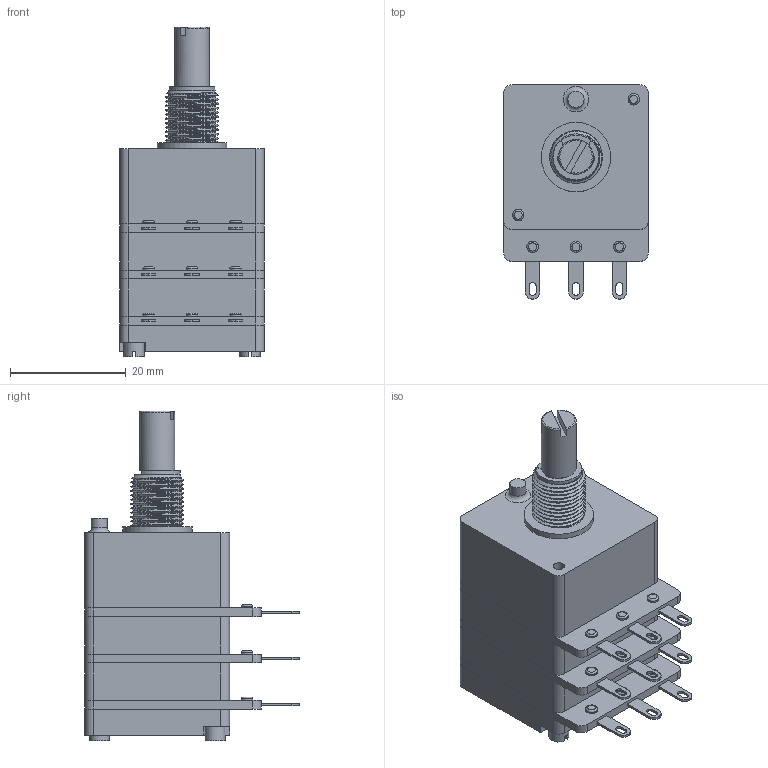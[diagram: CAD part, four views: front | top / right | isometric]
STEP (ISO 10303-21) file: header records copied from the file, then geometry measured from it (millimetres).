
FILE_DESCRIPTION(('FreeCAD Model'),'2;1');
FILE_NAME('Open CASCADE Shape Model','2024-02-26T14:30:19',(''),(''), 'Open CASCADE STEP processor 7.6','FreeCAD','Unknown');
FILE_SCHEMA(('AUTOMOTIVE_DESIGN { 1 0 10303 214 1 1 1 1 }'));
Length unit declared in the file: millimetre
Products named in the file (1): 3cp25xxs20
Bounding box: 25 x 37 x 57 mm (x, y, z)
Volume: 23252.9 mm3; surface area: 7558.3 mm2
Topology: 1 solids, 16 shells, 385 faces, 858 edges, 535 vertices
Faces by surface type: plane 189, cylinder 139, bspline 38, torus 13, cone 6
Full cylindrical faces by diameter (mm): 1.9 x6, 2 x25, 2.2 x10, 2.8 x1, 3.5 x2, 4.5 x3, 5.4 x1, 6 x1, 6.05 x1, 8 x1, 9.09 x11, 12 x1
Entity records: 31442 total; most frequent: CARTESIAN_POINT 13586, DIRECTION 2956, ORIENTED_EDGE 1714, PCURVE 1714, DEFINITIONAL_REPRESENTATION 1714, LINE 1470, VECTOR 1470, EDGE_CURVE 857
